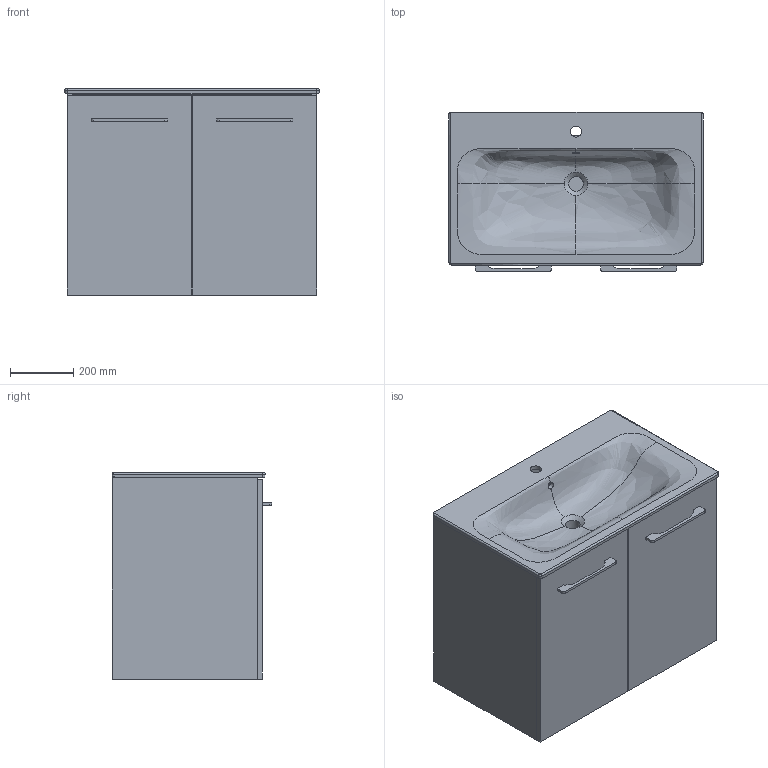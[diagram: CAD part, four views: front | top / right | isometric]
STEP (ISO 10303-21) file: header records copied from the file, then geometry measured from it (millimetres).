
FILE_DESCRIPTION(/* description */ (''),/* implementation_level */ '2;1');
FILE_NAME(/* name */ 'C:\Planerdaten\Export PLA\501.256.00.1\stp\501256.stp',/* time_stamp */ '2020-05-01T05:46:58-07:00',/* author */ ('JANAN'),/* organization */ (''),/* preprocessor_version */ 'ST-DEVELOPER v16.13',/* originating_system */ 'Autodesk Inventor 2018',/* authorisation */ '');
FILE_SCHEMA (('AUTOMOTIVE_DESIGN { 1 0 10303 214 3 1 1 }'));
Length unit declared in the file: millimetre
Products named in the file (3): US-f-1-WB w/ VB Ge+SnvS B80 2-Tü w; MWT Ge+SnvS B80 sLR m/ÜLF m/HLo; US-f-1-WB Ge+SnvS B80 2-Tü w
Assembly tree (2 placements, depth 2):
  US-f-1-WB w/ VB Ge+SnvS B80 2-Tü w
    MWT Ge+SnvS B80 sLR m/ÜLF m/HLo
    US-f-1-WB Ge+SnvS B80 2-Tü w
Bounding box: 801.06 x 502.03 x 651.5 mm (x, y, z)
Volume: 38851214.9 mm3; surface area: 4822602.8 mm2
Topology: 4 solids, 4 shells, 179 faces, 487 edges, 318 vertices
Faces by surface type: plane 77, bspline 64, cylinder 33, cone 4, torus 1
Full cylindrical faces by diameter (mm): 22 x1, 35 x1, 46 x1
Entity records: 20380 total; most frequent: CARTESIAN_POINT 16062, ORIENTED_EDGE 958, DIRECTION 699, EDGE_CURVE 479, VERTEX_POINT 315, AXIS2_PLACEMENT_3D 237, LINE 225, VECTOR 225
